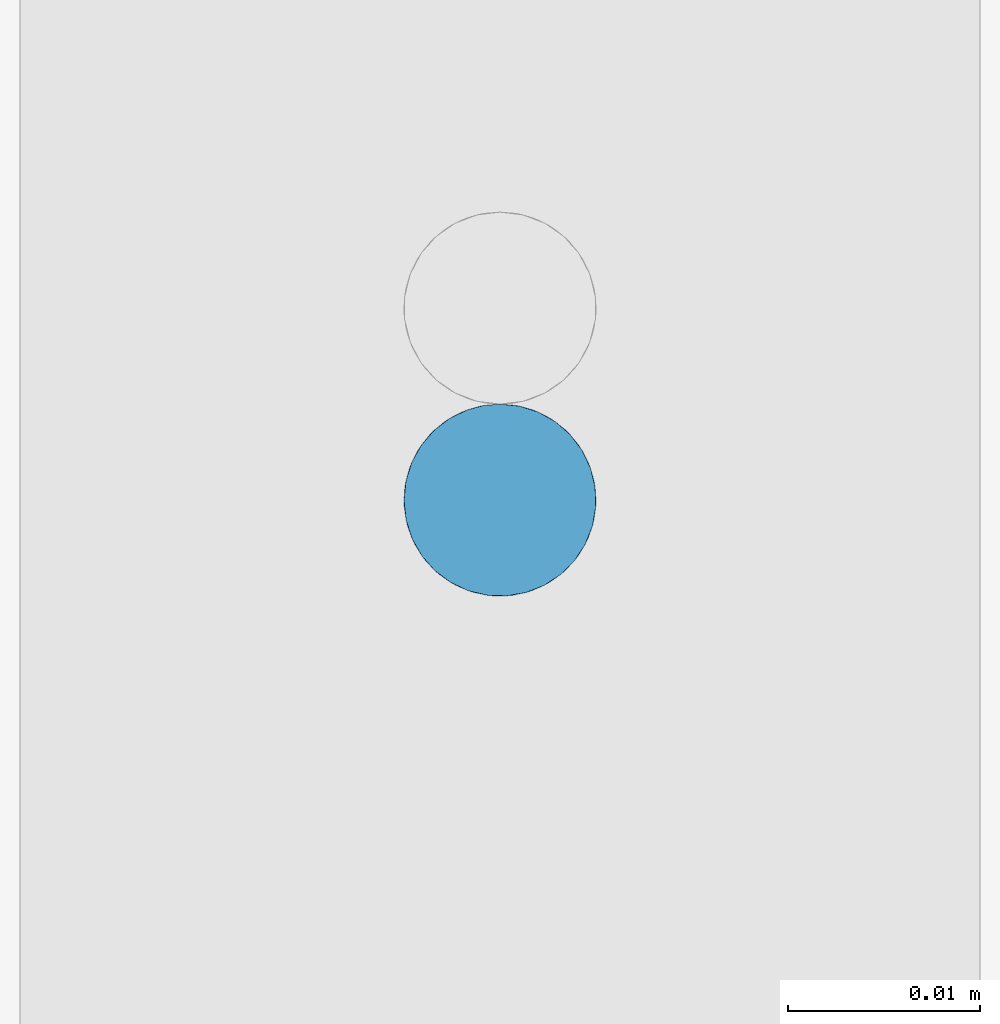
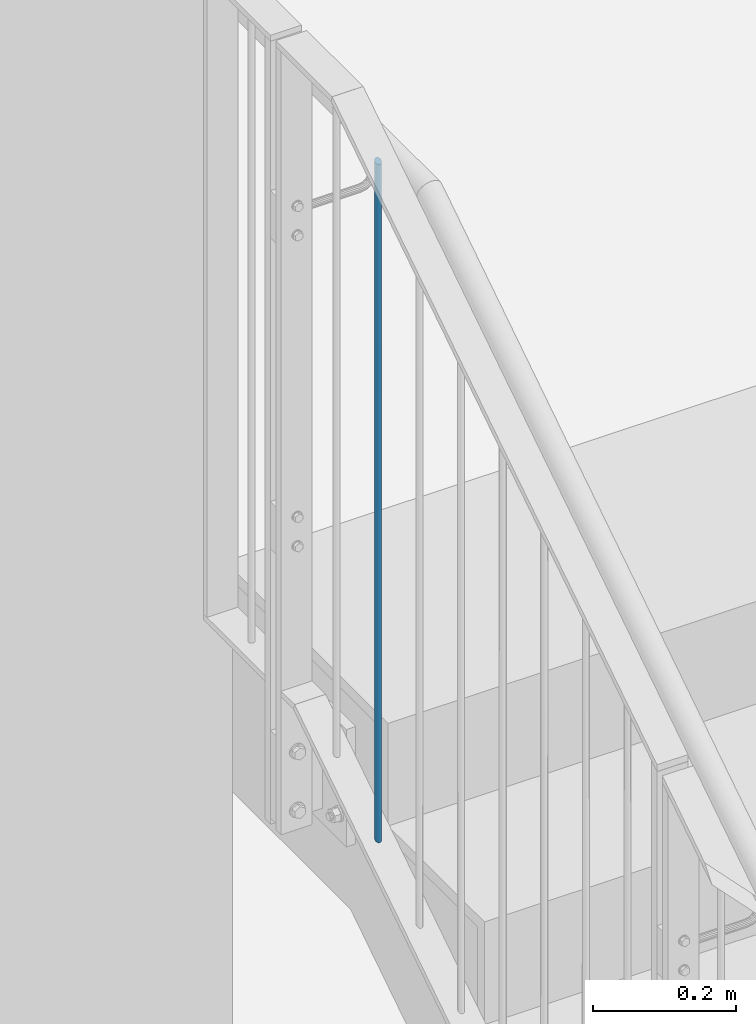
# One storey, part 48 of 296: 1 column.
"""IFC2X3 building model written with IfcOpenShell, lengths in millimetres."""

from ifc_helpers import new_model, entity, si_unit, converted_unit, frame, origin, origin_with_axes, origin_2d, place, context, project, spatial, circle, extrude, clip, halfspace, material, element, save


model = new_model("IFC2X3")

# Units and contexts
model_context = context("Model", 3, precision=1e-09, world=origin_with_axes())
ifc_project = project(units=[si_unit("LENGTHUNIT", "METRE", prefix="MILLI"), si_unit("AREAUNIT", "SQUARE_METRE"), si_unit("VOLUMEUNIT", "CUBIC_METRE"), converted_unit("PLANEANGLEUNIT", "DEGREE", entity("IfcPlaneAngleMeasure", 0.01745329), si_unit("PLANEANGLEUNIT", "RADIAN"), dimensions=[0, 0, 0, 0, 0, 0, 0])], contexts=[model_context])

# Site, building, storey
site_placement = place(None, origin_with_axes())
site = spatial("IfcSite", under=ifc_project, at=site_placement, Name="TZD-S?d | Treppenhausgel?nder", CompositionType="ELEMENT")
building_placement = place(site_placement, origin_with_axes())
building = spatial("IfcBuilding", under=site, at=building_placement, Name="Struktur 1", CompositionType="ELEMENT")
storey_placement = place(building_placement, origin_with_axes())
storey = spatial("IfcBuildingStorey", under=building, at=storey_placement, Name="Default Storey", CompositionType="ELEMENT", Elevation=0.0)

# Column
ifc_material = material(Name="S235JR")
column_placement = place(None, frame((-45.0, -739.7222222, 2312.565006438), z_axis=(0.0, 0.0, 1.0), x_axis=(0.0, 1.0, 0.0)))
element("IfcColumn", 1, at=column_placement, inside=storey, material=ifc_material, Name="-", ObjectType="-", context=model_context, shape_type="Clipping", body=[
    clip(clip(extrude(circle(Radius=5.0, at=origin_2d()), origin(), (0.0, 0.0, 1.0), 1184.937475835), halfspace(frame((-1069.743389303, -45.0, 476.537950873), z_axis=(0.544258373, 0.0, -0.83891765), x_axis=(0.0, 1.0, 0.0)), True)), halfspace(frame((-541.855857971, -45.0, -337.145749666), z_axis=(-0.544258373, 0.0, 0.83891765), x_axis=(0.0, -1.0, 0.0)), True)),
])

save(model, "model.ifc")
